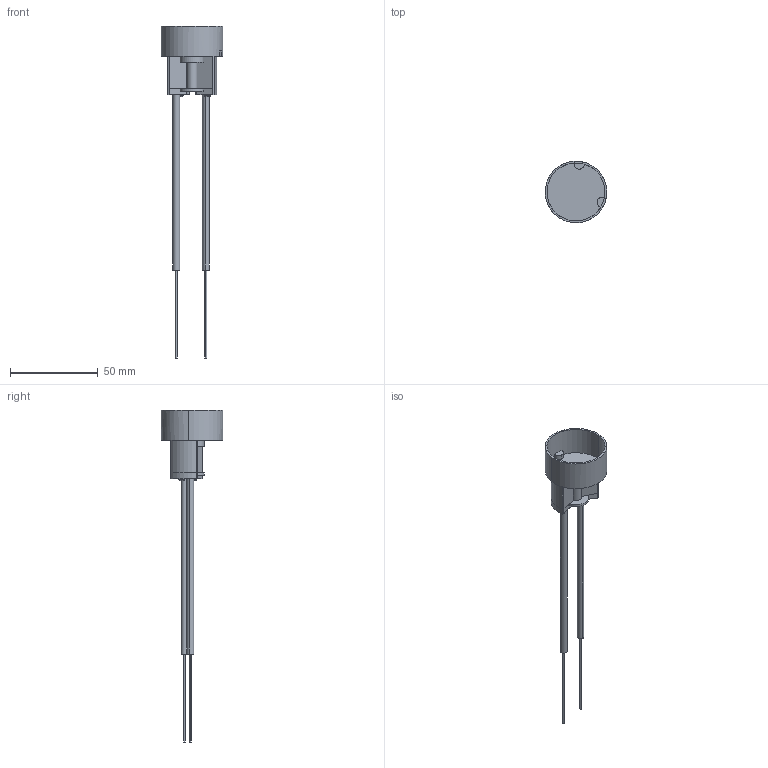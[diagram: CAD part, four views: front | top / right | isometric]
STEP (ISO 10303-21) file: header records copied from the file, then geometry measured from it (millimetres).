
FILE_DESCRIPTION (( 'STEP AP203' ), '1' );
FILE_NAME ('FR-3PRO.STEP', '2016-06-21T00:34:39', ( '' ), ( '' ), 'SwSTEP 2.0', 'SolidWorks 2014', '' );
FILE_SCHEMA (( 'CONFIG_CONTROL_DESIGN' ));
Length unit declared in the file: metre
Products named in the file (8): PROA3S-#-#-#-FR (4); PROA3S-#-#-#-FR (2); FR-3PRO; PROA3S-#-#-#-FR (3); PROA3S-#-#-#-FR (7); PROA3S-#-#-#-FR (1); PROA3S-#-#-#-FR (5); PROA3S-#-#-#-FR (6)
Assembly tree (9 placements, depth 2):
  FR-3PRO
    PROA3S-#-#-#-FR (1)
    PROA3S-#-#-#-FR (2)
    PROA3S-#-#-#-FR (3)
    PROA3S-#-#-#-FR (4)  x2
    PROA3S-#-#-#-FR (5)  x2
    PROA3S-#-#-#-FR (6)
    PROA3S-#-#-#-FR (7)
Bounding box: 34.94 x 34.98 x 188.7 mm (x, y, z)
Volume: 11465.1 mm3; surface area: 12098.9 mm2
Topology: 9 solids, 9 shells, 157 faces, 389 edges, 258 vertices
Faces by surface type: plane 80, cylinder 73, bspline 4
Entity records: 4997 total; most frequent: CARTESIAN_POINT 784, DIRECTION 745, ORIENTED_EDGE 674, EDGE_CURVE 337, AXIS2_PLACEMENT_3D 281, VERTEX_POINT 224, VECTOR 183, LINE 183
